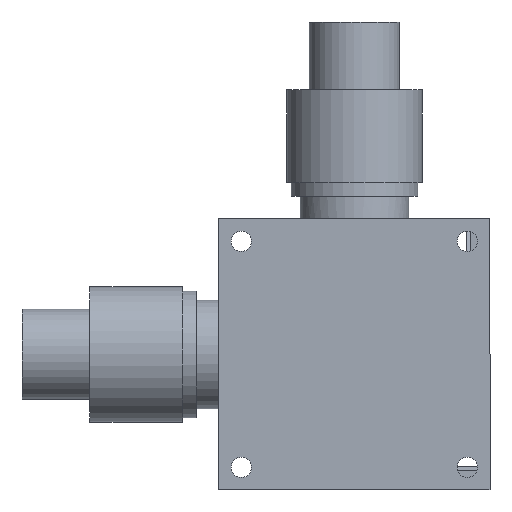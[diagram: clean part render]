
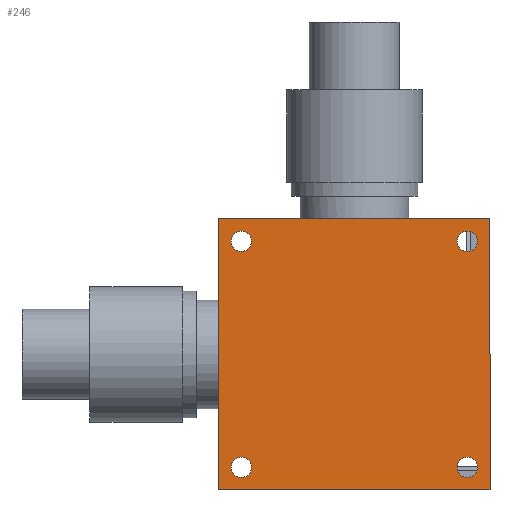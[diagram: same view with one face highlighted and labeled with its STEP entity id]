
A CAD part, front view. The second image highlights one B-rep face of the part: STEP entity #246.
In plain terms, the highlighted planar face has unit normal (0, -1, 0).
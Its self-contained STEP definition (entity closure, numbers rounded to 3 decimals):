
#141 = EDGE_CURVE ( 'NONE', #142, #143, #6214, .T. ) ;
#142 = VERTEX_POINT ( 'NONE', #6210 ) ;
#143 = VERTEX_POINT ( 'NONE', #6209 ) ;
#195 = EDGE_CURVE ( 'NONE', #196, #197, #2299, .T. ) ;
#196 = VERTEX_POINT ( 'NONE', #2295 ) ;
#197 = VERTEX_POINT ( 'NONE', #2294 ) ;
#211 = EDGE_CURVE ( 'NONE', #212, #213, #2333, .T. ) ;
#212 = VERTEX_POINT ( 'NONE', #2324 ) ;
#213 = VERTEX_POINT ( 'NONE', #2323 ) ;
#224 = EDGE_CURVE ( 'NONE', #260, #259, #2406, .T. ) ;
#246 = ADVANCED_FACE ( 'NONE', ( #2426, #2425, #2424, #2423, #2422 ), #2516, .F. ) ;
#247 = EDGE_LOOP ( 'NONE', ( #248, #249 ) ) ;
#248 = ORIENTED_EDGE ( 'NONE', *, *, #323, .T. ) ;
#249 = ORIENTED_EDGE ( 'NONE', *, *, #141, .T. ) ;
#250 = EDGE_LOOP ( 'NONE', ( #251, #252 ) ) ;
#251 = ORIENTED_EDGE ( 'NONE', *, *, #340, .T. ) ;
#252 = ORIENTED_EDGE ( 'NONE', *, *, #211, .T. ) ;
#253 = EDGE_LOOP ( 'NONE', ( #254, #255 ) ) ;
#254 = ORIENTED_EDGE ( 'NONE', *, *, #277, .T. ) ;
#255 = ORIENTED_EDGE ( 'NONE', *, *, #195, .T. ) ;
#256 = EDGE_LOOP ( 'NONE', ( #365, #366 ) ) ;
#258 = EDGE_CURVE ( 'NONE', #259, #260, #2511, .T. ) ;
#259 = VERTEX_POINT ( 'NONE', #2506 ) ;
#260 = VERTEX_POINT ( 'NONE', #2505 ) ;
#277 = EDGE_CURVE ( 'NONE', #197, #196, #2468, .T. ) ;
#312 = EDGE_CURVE ( 'NONE', #313, #314, #2518, .T. ) ;
#313 = VERTEX_POINT ( 'NONE', #2604 ) ;
#314 = VERTEX_POINT ( 'NONE', #2603 ) ;
#315 = ORIENTED_EDGE ( 'NONE', *, *, #316, .T. ) ;
#316 = EDGE_CURVE ( 'NONE', #314, #317, #2602, .T. ) ;
#317 = VERTEX_POINT ( 'NONE', #2598 ) ;
#318 = ORIENTED_EDGE ( 'NONE', *, *, #319, .T. ) ;
#319 = EDGE_CURVE ( 'NONE', #317, #320, #2597, .T. ) ;
#320 = VERTEX_POINT ( 'NONE', #2593 ) ;
#323 = EDGE_CURVE ( 'NONE', #143, #142, #2592, .T. ) ;
#340 = EDGE_CURVE ( 'NONE', #213, #212, #2632, .T. ) ;
#365 = ORIENTED_EDGE ( 'NONE', *, *, #224, .T. ) ;
#366 = ORIENTED_EDGE ( 'NONE', *, *, #258, .T. ) ;
#367 = EDGE_LOOP ( 'NONE', ( #368, #315, #318, #425 ) ) ;
#368 = ORIENTED_EDGE ( 'NONE', *, *, #312, .T. ) ;
#425 = ORIENTED_EDGE ( 'NONE', *, *, #426, .T. ) ;
#426 = EDGE_CURVE ( 'NONE', #320, #313, #2757, .T. ) ;
#2294 = CARTESIAN_POINT ( 'NONE',  ( 22.75, 0., -25. ) ) ;
#2295 = CARTESIAN_POINT ( 'NONE',  ( 27.25, 0., -25. ) ) ;
#2296 = DIRECTION ( 'NONE',  ( -1., 0., 0. ) ) ;
#2297 = DIRECTION ( 'NONE',  ( 0., 1., 0. ) ) ;
#2298 = AXIS2_PLACEMENT_3D ( 'NONE', #2304, #2297, #2296 ) ;
#2299 = CIRCLE ( 'NONE', #2298, 2.25 ) ;
#2304 = CARTESIAN_POINT ( 'NONE',  ( 25., 0., -25. ) ) ;
#2323 = CARTESIAN_POINT ( 'NONE',  ( 22.75, 0., 25. ) ) ;
#2324 = CARTESIAN_POINT ( 'NONE',  ( 27.25, 0., 25. ) ) ;
#2325 = DIRECTION ( 'NONE',  ( -1., 0., 0. ) ) ;
#2326 = DIRECTION ( 'NONE',  ( 0., 1., 0. ) ) ;
#2327 = CARTESIAN_POINT ( 'NONE',  ( 25., 0., 25. ) ) ;
#2328 = AXIS2_PLACEMENT_3D ( 'NONE', #2327, #2326, #2325 ) ;
#2333 = CIRCLE ( 'NONE', #2328, 2.25 ) ;
#2402 = DIRECTION ( 'NONE',  ( -1., 0., 0. ) ) ;
#2403 = DIRECTION ( 'NONE',  ( 0., 1., 0. ) ) ;
#2404 = CARTESIAN_POINT ( 'NONE',  ( -25., 0., -25. ) ) ;
#2405 = AXIS2_PLACEMENT_3D ( 'NONE', #2404, #2403, #2402 ) ;
#2406 = CIRCLE ( 'NONE', #2405, 2.25 ) ;
#2422 = FACE_OUTER_BOUND ( 'NONE', #367, .T. ) ;
#2423 = FACE_BOUND ( 'NONE', #256, .T. ) ;
#2424 = FACE_BOUND ( 'NONE', #253, .T. ) ;
#2425 = FACE_BOUND ( 'NONE', #250, .T. ) ;
#2426 = FACE_BOUND ( 'NONE', #247, .T. ) ;
#2460 = DIRECTION ( 'NONE',  ( -1., 0., 0. ) ) ;
#2461 = DIRECTION ( 'NONE',  ( 0., 1., 0. ) ) ;
#2462 = CARTESIAN_POINT ( 'NONE',  ( 25., 0., -25. ) ) ;
#2463 = AXIS2_PLACEMENT_3D ( 'NONE', #2462, #2461, #2460 ) ;
#2468 = CIRCLE ( 'NONE', #2463, 2.25 ) ;
#2505 = CARTESIAN_POINT ( 'NONE',  ( -27.25, 0., -25. ) ) ;
#2506 = CARTESIAN_POINT ( 'NONE',  ( -22.75, 0., -25. ) ) ;
#2507 = DIRECTION ( 'NONE',  ( -1., 0., 0. ) ) ;
#2508 = DIRECTION ( 'NONE',  ( 0., 1., 0. ) ) ;
#2509 = CARTESIAN_POINT ( 'NONE',  ( -25., 0., -25. ) ) ;
#2510 = AXIS2_PLACEMENT_3D ( 'NONE', #2509, #2508, #2507 ) ;
#2511 = CIRCLE ( 'NONE', #2510, 2.25 ) ;
#2512 = DIRECTION ( 'NONE',  ( -1., 0., 0. ) ) ;
#2513 = DIRECTION ( 'NONE',  ( 0., 1., 0. ) ) ;
#2514 = CARTESIAN_POINT ( 'NONE',  ( 30., 0., 30. ) ) ;
#2515 = AXIS2_PLACEMENT_3D ( 'NONE', #2514, #2513, #2512 ) ;
#2516 = PLANE ( 'NONE',  #2515 ) ;
#2518 = LINE ( 'NONE', #2607, #2606 ) ;
#2588 = DIRECTION ( 'NONE',  ( -1., 0., 0. ) ) ;
#2589 = DIRECTION ( 'NONE',  ( 0., 1., 0. ) ) ;
#2590 = CARTESIAN_POINT ( 'NONE',  ( -25., 0., 25. ) ) ;
#2591 = AXIS2_PLACEMENT_3D ( 'NONE', #2590, #2589, #2588 ) ;
#2592 = CIRCLE ( 'NONE', #2591, 2.25 ) ;
#2593 = CARTESIAN_POINT ( 'NONE',  ( -30., 0., -30. ) ) ;
#2594 = DIRECTION ( 'NONE',  ( 0., 0., -1. ) ) ;
#2595 = VECTOR ( 'NONE', #2594, 1000. ) ;
#2596 = CARTESIAN_POINT ( 'NONE',  ( -30., 0., 30. ) ) ;
#2597 = LINE ( 'NONE', #2596, #2595 ) ;
#2598 = CARTESIAN_POINT ( 'NONE',  ( -30., 0., 30. ) ) ;
#2599 = DIRECTION ( 'NONE',  ( -1., 0., 0. ) ) ;
#2600 = VECTOR ( 'NONE', #2599, 1000. ) ;
#2601 = CARTESIAN_POINT ( 'NONE',  ( 30., 0., 30. ) ) ;
#2602 = LINE ( 'NONE', #2601, #2600 ) ;
#2603 = CARTESIAN_POINT ( 'NONE',  ( 30., 0., 30. ) ) ;
#2604 = CARTESIAN_POINT ( 'NONE',  ( 30., 0., -30. ) ) ;
#2605 = DIRECTION ( 'NONE',  ( 0., 0., 1. ) ) ;
#2606 = VECTOR ( 'NONE', #2605, 1000. ) ;
#2607 = CARTESIAN_POINT ( 'NONE',  ( 30., 0., 30. ) ) ;
#2624 = DIRECTION ( 'NONE',  ( -1., 0., 0. ) ) ;
#2625 = DIRECTION ( 'NONE',  ( 0., 1., 0. ) ) ;
#2626 = CARTESIAN_POINT ( 'NONE',  ( 25., 0., 25. ) ) ;
#2627 = AXIS2_PLACEMENT_3D ( 'NONE', #2626, #2625, #2624 ) ;
#2632 = CIRCLE ( 'NONE', #2627, 2.25 ) ;
#2754 = DIRECTION ( 'NONE',  ( 1., 0., 0. ) ) ;
#2755 = VECTOR ( 'NONE', #2754, 1000. ) ;
#2756 = CARTESIAN_POINT ( 'NONE',  ( 30., 0., -30. ) ) ;
#2757 = LINE ( 'NONE', #2756, #2755 ) ;
#6209 = CARTESIAN_POINT ( 'NONE',  ( -27.25, 0., 25. ) ) ;
#6210 = CARTESIAN_POINT ( 'NONE',  ( -22.75, 0., 25. ) ) ;
#6211 = DIRECTION ( 'NONE',  ( -1., 0., 0. ) ) ;
#6212 = DIRECTION ( 'NONE',  ( 0., 1., 0. ) ) ;
#6213 = AXIS2_PLACEMENT_3D ( 'NONE', #6218, #6212, #6211 ) ;
#6214 = CIRCLE ( 'NONE', #6213, 2.25 ) ;
#6218 = CARTESIAN_POINT ( 'NONE',  ( -25., 0., 25. ) ) ;
